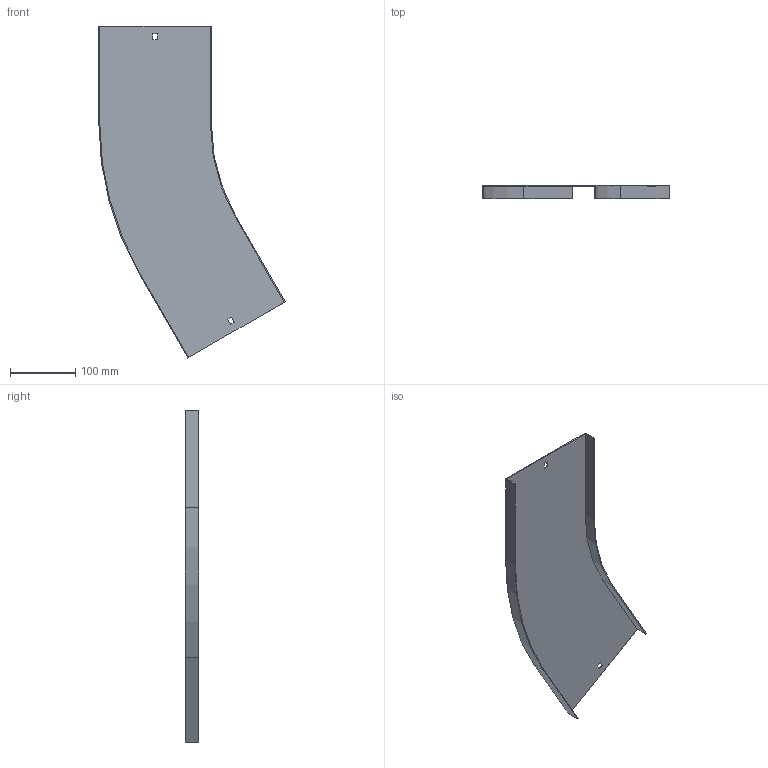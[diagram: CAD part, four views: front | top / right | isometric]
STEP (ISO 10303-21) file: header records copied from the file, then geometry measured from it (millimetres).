
FILE_DESCRIPTION (( 'STEP AP214' ), '1' );
FILE_NAME ('12N3P150.step', '2025-02-21T13:33:43', ( '' ), ( '' ), 'SwSTEP 2.0', 'SolidWorks 2023', '' );
FILE_SCHEMA (( 'AUTOMOTIVE_DESIGN' ));
Length unit declared in the file: millimetre
Products named in the file (1): 12N3P150
Bounding box: 286.65 x 20 x 510.65 mm (x, y, z)
Volume: 156174.6 mm3; surface area: 210444.9 mm2
Topology: 1 solids, 1 shells, 26 faces, 72 edges, 48 vertices
Faces by surface type: plane 22, cylinder 4
Entity records: 855 total; most frequent: CARTESIAN_POINT 147, ORIENTED_EDGE 144, DIRECTION 134, EDGE_CURVE 72, VECTOR 64, LINE 64, VERTEX_POINT 48, AXIS2_PLACEMENT_3D 35
